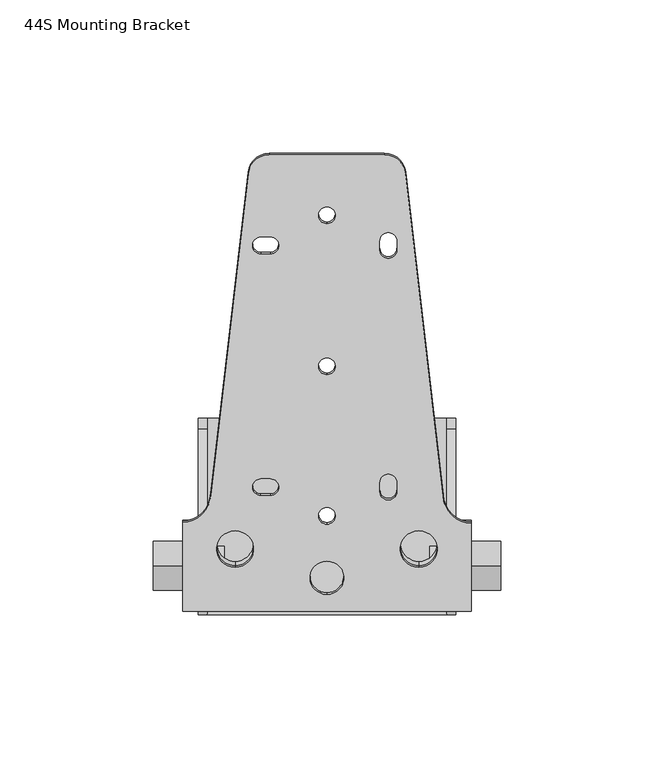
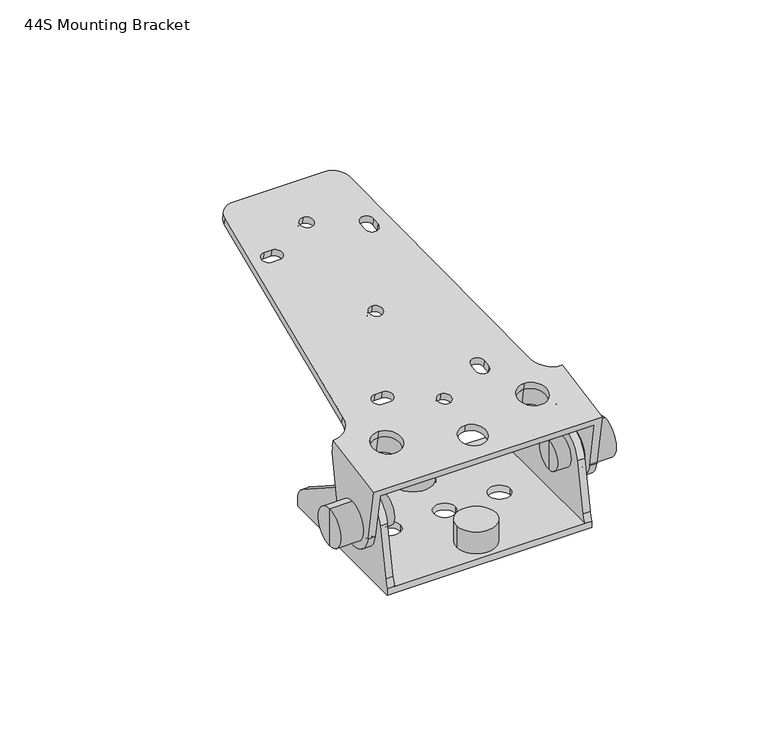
"""IFC4 building model written with IfcOpenShell, lengths in millimetres: proxy geometry, d&b xS-Series 44S Mounting Bracket : 44S Mounting Bracket."""

from ifc_helpers import new_model, si_unit, point, frame, frame_2d, origin, origin_with_axes, place, context, project, spatial, polyline, circle_curve, trimmed, segment, composite_curve, outline, extrude, source, transform, mapped, element, save
from ifc_brep_helpers import plane_surface, cylinder_surface, revolved_surface, advanced_brep


def proxy_44s_mounting_bracket_1f6d09f7(model_context):
    return source(origin(), model_context, "Body", "SolidModel", [
        advanced_brep(
        [(25.7132706, 112.2510422, 67.9302869), (37.9949251, 7.1169841, 49.3923159), (47.0, -1.7512835, 47.8286011), (44.0, -1.7512835, 47.8286011), (44.0, -30.3491528, 42.7860251), (-44.0, -30.3491528, 42.7860251), (-44.0, -1.7512835, 47.8286011), (-47.0, -1.7512835, 47.8286011), (-47.0, -1.4422551, 47.8830911), (-37.9541317, 7.4661862, 49.4538897), (-25.7132706, 112.2510422, 67.9302869), (-18.7591389, 118.3568179, 69.0068999), (18.7591389, 118.3568179, 69.0068999), (29.9380242, -4.2340768, 47.3908176), (29.9380242, -16.0517698, 45.3070395), (-29.9380242, -4.2340768, 47.3908176), (-29.9380242, -16.0517698, 45.3070395), (0.0, 101.3688842, 66.0114689), (0.0, 95.9524415, 65.0564039), (0.0, 3.3805127, 48.7334752), (0.0, -2.0359299, 47.7784102), (0.0, -14.0998249, 45.65122), (0.0, -24.9327102, 43.7410901), (22.75, 8.5507535, 49.6451281), (22.75, 11.5051767, 50.1660727), (17.25, 11.5051767, 50.1660727), (17.25, 8.5507535, 49.6451281), (-21.5, 7.3197438, 49.4280679), (-18.5, 7.3197438, 49.4280679), (-18.5, 12.7361864, 50.3831329), (-21.5, 12.7361864, 50.3831329), (17.25, 90.289797, 64.0579269), (17.25, 87.3353737, 63.5369823), (22.75, 87.3353737, 63.5369823), (22.75, 90.289797, 64.0579269), (-18.5, 91.5208066, 64.2749871), (-21.5, 91.5208066, 64.2749871), (-21.5, 86.104364, 63.3199221), (-18.5, 86.104364, 63.3199221), (0.0, 52.1284965, 57.32906), (0.0, 46.7120539, 56.373995), (25.7132706, 111.7300977, 70.8847102), (18.7591389, 117.8358734, 71.9613232), (-18.7591389, 117.8358734, 71.9613232), (-25.7132706, 111.7300977, 70.8847102), (-37.9541317, 6.9452417, 52.4083129), (-47.0, -1.9631996, 50.8375144), (-47.0, -30.8700973, 45.7404484), (47.0, -30.8700973, 45.7404484), (47.0, -2.272228, 50.7830243), (37.9949251, 6.5960396, 52.3467392), (29.9380242, -4.7550213, 50.3452409), (29.9380242, -16.5727143, 48.2614627), (-29.9380242, -4.7550213, 50.3452409), (-29.9380242, -16.5727143, 48.2614627), (0.0, 100.8479396, 68.9658921), (0.0, 95.431497, 68.0108272), (0.0, 2.8595682, 51.6878984), (0.0, -2.5568744, 50.7328335), (0.0, -14.6207694, 48.6056433), (0.0, -25.4536547, 46.6955133), (22.75, 8.0298089, 52.5995514), (17.25, 8.0298089, 52.5995514), (17.25, 10.9842322, 53.1204959), (22.75, 10.9842322, 53.1204959), (-21.5, 6.7987992, 52.3824912), (-21.5, 12.2152419, 53.3375561), (-18.5, 12.2152419, 53.3375561), (-18.5, 6.7987992, 52.3824912), (17.25, 89.7688524, 67.0123501), (22.75, 89.7688524, 67.0123501), (22.75, 86.8144292, 66.4914056), (17.25, 86.8144292, 66.4914056), (-18.5, 90.9998621, 67.2294104), (-18.5, 85.5834195, 66.2743454), (-21.5, 85.5834195, 66.2743454), (-21.5, 90.9998621, 67.2294104), (0.0, 51.607552, 60.2834832), (0.0, 46.1911093, 59.3284183), (47.0, -26.8761892, 23.08987), (47.0, -5.2104187, 23.08987), (47.0, -1.2997982, 45.2681009), (-47.0, -26.8761892, 23.08987), (-44.0, -26.8761892, 23.08987), (44.0, -26.8761892, 23.08987), (-47.0, -1.2997982, 45.2681009), (-47.0, -5.2104187, 23.08987), (-44.0, -5.2104187, 23.08987), (-44.0, -1.2997982, 45.2681009), (44.0, -1.2997982, 45.2681009), (44.0, -5.2104187, 23.08987)],
        [
            (0, 1),
            (1, 2, circle_curve(frame((47.0, 7.1169841, 49.3923159), z_axis=(0.0, -0.17364817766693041, 0.9848077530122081), x_axis=(0.0, -0.9848077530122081, -0.17364817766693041)), 9.0050749)),
            (2, 3),
            (3, 4),
            (4, 5),
            (5, 6),
            (6, 7),
            (7, 8),
            (8, 9, circle_curve(frame((-47.0, 7.4661862, 49.4538897), z_axis=(0.0, -0.17364817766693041, 0.9848077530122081), x_axis=(0.0, -0.9848077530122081, -0.17364817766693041)), 9.0458683)),
            (9, 10),
            (10, 11, circle_curve(frame((-18.7591389, 111.4631636, 67.7913627), z_axis=(0.0, 0.17364817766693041, -0.9848077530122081), x_axis=(0.0, -0.9848077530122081, -0.17364817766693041)), 7.0)),
            (11, 12),
            (12, 0, circle_curve(frame((18.7591389, 111.4631636, 67.7913627), z_axis=(0.0, 0.17364817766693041, -0.9848077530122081), x_axis=(0.0, -0.9848077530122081, -0.17364817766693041)), 7.0)),
            (13, 14, circle_curve(frame((29.9380242, -10.1429233, 46.3489285), z_axis=(0.0, -0.1736481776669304, 0.9848077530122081), x_axis=(0.0, -0.9848077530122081, -0.1736481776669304)), 6.0)),
            (14, 13, circle_curve(frame((29.9380242, -10.1429233, 46.3489285), z_axis=(0.0, -0.1736481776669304, 0.9848077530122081), x_axis=(0.0, -0.9848077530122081, -0.1736481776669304)), 6.0)),
            (15, 16, circle_curve(frame((-29.9380242, -10.1429233, 46.3489285), z_axis=(0.0, -0.1736481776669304, 0.9848077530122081), x_axis=(0.0, -0.9848077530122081, -0.1736481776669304)), 6.0)),
            (16, 15, circle_curve(frame((-29.9380242, -10.1429233, 46.3489285), z_axis=(0.0, -0.1736481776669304, 0.9848077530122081), x_axis=(0.0, -0.9848077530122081, -0.1736481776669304)), 6.0)),
            (17, 18, circle_curve(frame((0.0, 98.6606629, 65.5339364), z_axis=(0.0, -0.1736481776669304, 0.9848077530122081), x_axis=(0.0, -0.9848077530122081, -0.1736481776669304)), 2.75)),
            (18, 17, circle_curve(frame((0.0, 98.6606629, 65.5339364), z_axis=(0.0, -0.1736481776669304, 0.9848077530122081), x_axis=(0.0, -0.9848077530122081, -0.1736481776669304)), 2.75)),
            (19, 20, circle_curve(frame((0.0, 0.6722914, 48.2559427), z_axis=(0.0, -0.1736481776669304, 0.9848077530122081), x_axis=(0.0, -0.9848077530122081, -0.1736481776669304)), 2.75)),
            (20, 19, circle_curve(frame((0.0, 0.6722914, 48.2559427), z_axis=(0.0, -0.1736481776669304, 0.9848077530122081), x_axis=(0.0, -0.9848077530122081, -0.1736481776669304)), 2.75)),
            (21, 22, circle_curve(frame((0.0, -19.5162675, 44.6961551), z_axis=(0.0, -0.1736481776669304, 0.9848077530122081), x_axis=(0.0, -0.9848077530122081, -0.1736481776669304)), 5.5)),
            (22, 21, circle_curve(frame((0.0, -19.5162675, 44.6961551), z_axis=(0.0, -0.1736481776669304, 0.9848077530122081), x_axis=(0.0, -0.9848077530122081, -0.1736481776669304)), 5.5)),
            (23, 24),
            (24, 25, circle_curve(frame((20.0, 11.5051767, 50.1660727), z_axis=(0.0, -0.1736481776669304, 0.9848077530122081), x_axis=(0.0, -0.9848077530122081, -0.1736481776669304)), 2.75)),
            (25, 26),
            (26, 23, circle_curve(frame((20.0, 8.5507535, 49.6451281), z_axis=(0.0, -0.1736481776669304, 0.9848077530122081), x_axis=(0.0, -0.9848077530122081, -0.1736481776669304)), 2.75)),
            (27, 28),
            (28, 29, circle_curve(frame((-18.5, 10.0279651, 49.9056004), z_axis=(0.0, -0.1736481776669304, 0.9848077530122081), x_axis=(0.0, -0.9848077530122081, -0.1736481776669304)), 2.75)),
            (29, 30),
            (30, 27, circle_curve(frame((-21.5, 10.0279651, 49.9056004), z_axis=(0.0, -0.1736481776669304, 0.9848077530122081), x_axis=(0.0, -0.9848077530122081, -0.1736481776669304)), 2.75)),
            (31, 32),
            (32, 33, circle_curve(frame((20.0, 87.3353737, 63.5369823), z_axis=(0.0, -0.1736481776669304, 0.9848077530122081), x_axis=(0.0, -0.9848077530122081, -0.1736481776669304)), 2.75)),
            (33, 34),
            (34, 31, circle_curve(frame((20.0, 90.289797, 64.0579269), z_axis=(0.0, -0.1736481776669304, 0.9848077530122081), x_axis=(0.0, -0.9848077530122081, -0.1736481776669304)), 2.75)),
            (35, 36),
            (36, 37, circle_curve(frame((-21.5, 88.8125853, 63.7974546), z_axis=(0.0, -0.1736481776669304, 0.9848077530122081), x_axis=(0.0, -0.9848077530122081, -0.1736481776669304)), 2.75)),
            (37, 38),
            (38, 35, circle_curve(frame((-18.5, 88.8125853, 63.7974546), z_axis=(0.0, -0.1736481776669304, 0.9848077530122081), x_axis=(0.0, -0.9848077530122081, -0.1736481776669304)), 2.75)),
            (39, 40, circle_curve(frame((0.0, 49.4202752, 56.8515275), z_axis=(0.0, -0.1736481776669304, 0.9848077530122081), x_axis=(0.0, -0.9848077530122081, -0.1736481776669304)), 2.75)),
            (40, 39, circle_curve(frame((0.0, 49.4202752, 56.8515275), z_axis=(0.0, -0.1736481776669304, 0.9848077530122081), x_axis=(0.0, -0.9848077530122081, -0.1736481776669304)), 2.75)),
            (41, 42, circle_curve(frame((18.7591389, 110.9422191, 70.7457859), z_axis=(0.0, -0.17364817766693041, 0.9848077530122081), x_axis=(0.0, -0.9848077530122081, -0.17364817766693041)), 7.0)),
            (42, 43),
            (43, 44, circle_curve(frame((-18.7591389, 110.9422191, 70.7457859), z_axis=(0.0, -0.17364817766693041, 0.9848077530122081), x_axis=(0.0, -0.9848077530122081, -0.17364817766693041)), 7.0)),
            (44, 45),
            (45, 46, circle_curve(frame((-47.0, 6.9452417, 52.4083129), z_axis=(0.0, 0.17364817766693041, -0.9848077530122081), x_axis=(0.0, -0.9848077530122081, -0.17364817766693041)), 9.0458683)),
            (46, 47),
            (47, 48),
            (48, 49),
            (49, 50, circle_curve(frame((47.0, 6.5960396, 52.3467392), z_axis=(0.0, 0.17364817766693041, -0.9848077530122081), x_axis=(0.0, -0.9848077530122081, -0.17364817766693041)), 9.0050749)),
            (50, 41),
            (51, 52, circle_curve(frame((29.9380242, -10.6638678, 49.3033518), z_axis=(0.0, 0.1736481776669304, -0.9848077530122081), x_axis=(0.0, -0.9848077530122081, -0.1736481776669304)), 6.0)),
            (52, 51, circle_curve(frame((29.9380242, -10.6638678, 49.3033518), z_axis=(0.0, 0.1736481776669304, -0.9848077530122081), x_axis=(0.0, -0.9848077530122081, -0.1736481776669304)), 6.0)),
            (53, 54, circle_curve(frame((-29.9380242, -10.6638678, 49.3033518), z_axis=(0.0, 0.1736481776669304, -0.9848077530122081), x_axis=(0.0, -0.9848077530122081, -0.1736481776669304)), 6.0)),
            (54, 53, circle_curve(frame((-29.9380242, -10.6638678, 49.3033518), z_axis=(0.0, 0.1736481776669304, -0.9848077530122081), x_axis=(0.0, -0.9848077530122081, -0.1736481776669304)), 6.0)),
            (55, 56, circle_curve(frame((0.0, 98.1397183, 68.4883596), z_axis=(0.0, 0.1736481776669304, -0.9848077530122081), x_axis=(0.0, -0.9848077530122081, -0.1736481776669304)), 2.75)),
            (56, 55, circle_curve(frame((0.0, 98.1397183, 68.4883596), z_axis=(0.0, 0.1736481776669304, -0.9848077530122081), x_axis=(0.0, -0.9848077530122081, -0.1736481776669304)), 2.75)),
            (57, 58, circle_curve(frame((0.0, 0.1513469, 51.210366), z_axis=(0.0, 0.1736481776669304, -0.9848077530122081), x_axis=(0.0, -0.9848077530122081, -0.1736481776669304)), 2.75)),
            (58, 57, circle_curve(frame((0.0, 0.1513469, 51.210366), z_axis=(0.0, 0.1736481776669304, -0.9848077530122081), x_axis=(0.0, -0.9848077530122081, -0.1736481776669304)), 2.75)),
            (59, 60, circle_curve(frame((0.0, -20.037212, 47.6505783), z_axis=(0.0, 0.1736481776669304, -0.9848077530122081), x_axis=(0.0, -0.9848077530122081, -0.1736481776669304)), 5.5)),
            (60, 59, circle_curve(frame((0.0, -20.037212, 47.6505783), z_axis=(0.0, 0.1736481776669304, -0.9848077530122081), x_axis=(0.0, -0.9848077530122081, -0.1736481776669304)), 5.5)),
            (61, 62, circle_curve(frame((20.0, 8.0298089, 52.5995514), z_axis=(0.0, 0.1736481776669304, -0.9848077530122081), x_axis=(0.0, -0.9848077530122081, -0.1736481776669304)), 2.75)),
            (62, 63),
            (63, 64, circle_curve(frame((20.0, 10.9842322, 53.1204959), z_axis=(0.0, 0.1736481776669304, -0.9848077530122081), x_axis=(0.0, -0.9848077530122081, -0.1736481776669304)), 2.75)),
            (64, 61),
            (65, 66, circle_curve(frame((-21.5, 9.5070205, 52.8600236), z_axis=(0.0, 0.1736481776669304, -0.9848077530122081), x_axis=(0.0, -0.9848077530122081, -0.1736481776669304)), 2.75)),
            (66, 67),
            (67, 68, circle_curve(frame((-18.5, 9.5070205, 52.8600236), z_axis=(0.0, 0.1736481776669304, -0.9848077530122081), x_axis=(0.0, -0.9848077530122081, -0.1736481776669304)), 2.75)),
            (68, 65),
            (69, 70, circle_curve(frame((20.0, 89.7688524, 67.0123501), z_axis=(0.0, 0.1736481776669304, -0.9848077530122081), x_axis=(0.0, -0.9848077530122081, -0.1736481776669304)), 2.75)),
            (70, 71),
            (71, 72, circle_curve(frame((20.0, 86.8144292, 66.4914056), z_axis=(0.0, 0.1736481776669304, -0.9848077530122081), x_axis=(0.0, -0.9848077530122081, -0.1736481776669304)), 2.75)),
            (72, 69),
            (73, 74, circle_curve(frame((-18.5, 88.2916408, 66.7518779), z_axis=(0.0, 0.1736481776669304, -0.9848077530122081), x_axis=(0.0, -0.9848077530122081, -0.1736481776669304)), 2.75)),
            (74, 75),
            (75, 76, circle_curve(frame((-21.5, 88.2916408, 66.7518779), z_axis=(0.0, 0.1736481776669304, -0.9848077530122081), x_axis=(0.0, -0.9848077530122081, -0.1736481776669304)), 2.75)),
            (76, 73),
            (77, 78, circle_curve(frame((0.0, 48.8993307, 59.8059508), z_axis=(0.0, 0.1736481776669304, -0.9848077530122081), x_axis=(0.0, -0.9848077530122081, -0.1736481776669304)), 2.75)),
            (78, 77, circle_curve(frame((0.0, 48.8993307, 59.8059508), z_axis=(0.0, 0.1736481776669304, -0.9848077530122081), x_axis=(0.0, -0.9848077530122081, -0.1736481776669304)), 2.75)),
            (0, 41),
            (50, 1),
            (49, 2),
            (48, 79),
            (79, 80, circle_curve(frame((47.0, -16.043304, 25.0), z_axis=(1.0, 0.0, 0.0), x_axis=(0.0, -0.984807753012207, -0.17364817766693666)), 11.0)),
            (80, 81),
            (81, 2),
            (47, 82),
            (82, 83),
            (83, 5),
            (4, 84),
            (84, 79),
            (46, 8),
            (7, 85),
            (85, 86),
            (86, 82, circle_curve(frame((-47.0, -16.043304, 25.0), z_axis=(-1.0, 0.0, 0.0), x_axis=(0.0, -0.9848077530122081, -0.17364817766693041)), 11.0)),
            (45, 9),
            (44, 10),
            (43, 11),
            (42, 12),
            (13, 51),
            (52, 14),
            (15, 53),
            (54, 16),
            (17, 55),
            (56, 18),
            (19, 57),
            (58, 20),
            (21, 59),
            (60, 22),
            (23, 61),
            (64, 24),
            (63, 25),
            (62, 26),
            (27, 65),
            (68, 28),
            (67, 29),
            (66, 30),
            (31, 69),
            (72, 32),
            (71, 33),
            (70, 34),
            (35, 73),
            (76, 36),
            (75, 37),
            (74, 38),
            (83, 87, circle_curve(frame((-44.0, -16.043304, 25.0), z_axis=(1.0, 0.0, 0.0), x_axis=(0.0, -0.9848077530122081, -0.17364817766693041)), 11.0)),
            (87, 88),
            (88, 6),
            (85, 88),
            (87, 86),
            (3, 89),
            (89, 90),
            (90, 84, circle_curve(frame((44.0, -16.043304, 25.0), z_axis=(-1.0, 0.0, 0.0), x_axis=(0.0, -0.984807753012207, -0.17364817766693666)), 11.0)),
            (80, 90),
            (89, 81),
            (39, 77),
            (78, 40),
        ],
        [
            plane_surface(frame((37.9541317, 7.4661862, 49.4538897), z_axis=(0.0, 0.17364817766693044, -0.9848077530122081), x_axis=(0.11429040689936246, -0.9783546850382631, -0.1725103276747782))),
            plane_surface(frame((37.9541317, 6.9452417, 52.4083129), z_axis=(0.0, -0.17364817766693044, 0.9848077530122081), x_axis=(-0.11429040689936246, 0.9783546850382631, 0.1725103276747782))),
            plane_surface(frame((25.7132706, 112.2510422, 67.9302869), z_axis=(0.9934473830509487, 0.11255407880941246, 0.01984632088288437), x_axis=(0.0, -0.17364817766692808, 0.9848077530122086))),
            revolved_surface(polyline([(47.0, -2.2722279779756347, 50.78302435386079), (47.0, -1.7512834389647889, 47.82860106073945)]), (47.0, 6.5960396, 52.3467392), (0.0, -0.17364817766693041, 0.9848077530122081)),
            plane_surface(frame((47.0, -1.7512835, 47.8286011), z_axis=(1.0000000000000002, 0.0, 0.0), x_axis=(0.0, -0.17364817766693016, 0.9848077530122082))),
            plane_surface(frame((47.0, -30.3491528, 42.7860251), z_axis=(0.0, -0.984807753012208, -0.17364817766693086), x_axis=(0.0, -0.17364817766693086, 0.984807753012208))),
            plane_surface(frame((-47.0, -30.3491528, 42.7860251), z_axis=(-1.0, 0.0, 0.0), x_axis=(0.0, -0.17364817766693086, 0.984807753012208))),
            revolved_surface(polyline([(-47.0, -1.963199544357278, 50.83751440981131), (-47.0, -1.4422550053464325, 47.883091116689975)]), (-47.0, 6.9452417, 52.4083129), (0.0, -0.17364817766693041, 0.9848077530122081)),
            plane_surface(frame((-37.9541317, 7.4661862, 49.4538897), z_axis=(-0.9934473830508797, 0.11255407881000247, 0.01984632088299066), x_axis=(0.0, -0.17364817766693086, 0.984807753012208))),
            cylinder_surface(frame((-18.7591389, 110.9422191, 70.7457859), z_axis=(0.0, 0.17364817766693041, -0.9848077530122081), x_axis=(0.0, -0.9848077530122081, -0.17364817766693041)), 7.0),
            plane_surface(frame((-18.7591389, 118.3568179, 69.0068999), z_axis=(0.0, 0.9848077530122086, 0.17364817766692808), x_axis=(0.0, -0.17364817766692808, 0.9848077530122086))),
            cylinder_surface(frame((18.7591389, 110.9422191, 70.7457859), z_axis=(0.0, 0.17364817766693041, -0.9848077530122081), x_axis=(0.0, -0.9848077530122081, -0.17364817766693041)), 7.0),
            revolved_surface(polyline([(29.9380242, -16.572714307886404, 48.261462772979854), (29.9380242, -16.05176976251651, 45.30703944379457)]), (29.9380242, -6.6699597, 26.6527735), (0.0, -0.1736481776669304, 0.9848077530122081)),
            revolved_surface(polyline([(-29.9380242, -16.572714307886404, 48.261462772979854), (-29.9380242, -16.05176976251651, 45.30703944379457)]), (-29.9380242, -6.6699597, 26.6527735), (0.0, -0.1736481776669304, 0.9848077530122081)),
            revolved_surface(polyline([(0.0, 95.43149698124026, 68.01082719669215), (0.0, 95.95244152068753, 65.05640390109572)]), (0.0, 102.1336264, 45.8377813), (0.0, -0.1736481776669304, 0.9848077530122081)),
            revolved_surface(polyline([(0.0, -2.556874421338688, 50.73283351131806), (0.0, -2.0359298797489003, 47.77841020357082)]), (0.0, 4.145255, 28.5597876), (0.0, -0.1736481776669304, 0.9848077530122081)),
            revolved_surface(polyline([(0.0, -25.453654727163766, 46.69551333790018), (0.0, -24.932710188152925, 43.74109004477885)]), (0.0, -16.043304, 25.0), (0.0, -0.1736481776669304, 0.9848077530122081)),
            plane_surface(frame((22.75, 8.5507535, 49.6451281), z_axis=(-1.0000000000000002, 0.0, 0.0), x_axis=(0.0, -0.17364817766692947, 0.9848077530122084))),
            revolved_surface(polyline([(20.0, 8.276010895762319, 52.64296341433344), (20.0, 8.796955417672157, 49.68854021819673)]), (20.0, 14.9781403, 30.4699176), (0.0, -0.1736481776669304, 0.9848077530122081)),
            plane_surface(frame((17.25, 11.5051767, 50.1660727), z_axis=(1.0000000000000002, 0.0, 0.0), x_axis=(0.0, -0.17364817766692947, 0.9848077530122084))),
            revolved_surface(polyline([(20.0, 5.321587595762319, 52.12201891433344), (20.0, 5.842532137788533, 49.16759560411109)]), (20.0, 12.023717, 29.9489731), (0.0, -0.1736481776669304, 0.9848077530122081)),
            plane_surface(frame((-21.5, 7.3197438, 49.4280679), z_axis=(0.0, 0.9848077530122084, 0.17364817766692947), x_axis=(0.0, -0.17364817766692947, 0.9848077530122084))),
            revolved_surface(polyline([(-18.5, 6.7987991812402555, 52.38249119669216), (-18.5, 7.319743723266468, 49.42806788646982)]), (-18.5, 13.5009286, 30.2094453), (0.0, -0.1736481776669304, 0.9848077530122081)),
            plane_surface(frame((-18.5, 12.7361864, 50.3831329), z_axis=(0.0, -0.9848077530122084, -0.17364817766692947), x_axis=(0.0, -0.17364817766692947, 0.9848077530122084))),
            revolved_surface(polyline([(-21.5, 6.7987991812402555, 52.38249119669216), (-21.5, 7.319743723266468, 49.42806788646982)]), (-21.5, 13.5009286, 30.2094453), (0.0, -0.1736481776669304, 0.9848077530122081)),
            plane_surface(frame((17.25, 90.289797, 64.0579269), z_axis=(1.0000000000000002, 0.0, 0.0), x_axis=(0.0, -0.17364817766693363, 0.9848077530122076))),
            revolved_surface(polyline([(20.0, 84.10620779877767, 66.01387309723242), (20.0, 84.62715233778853, 63.05944980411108)]), (20.0, 90.8083372, 43.8408273), (0.0, -0.1736481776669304, 0.9848077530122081)),
            plane_surface(frame((22.75, 87.3353737, 63.5369823), z_axis=(-1.0000000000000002, 0.0, 0.0), x_axis=(0.0, -0.17364817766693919, 0.9848077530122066))),
            revolved_surface(polyline([(20.0, 87.0606310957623, 66.53481761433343), (20.0, 87.58157562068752, 63.58039440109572)]), (20.0, 93.7627605, 44.3617718), (0.0, -0.1736481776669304, 0.9848077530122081)),
            plane_surface(frame((-18.5, 91.5208066, 64.2749871), z_axis=(0.0, -0.9848077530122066, -0.17364817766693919), x_axis=(0.0, -0.17364817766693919, 0.9848077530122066))),
            revolved_surface(polyline([(-21.5, 85.58341947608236, 66.27434542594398), (-21.5, 86.10436402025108, 63.31992210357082)]), (-21.5, 92.2855489, 44.1012995), (0.0, -0.1736481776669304, 0.9848077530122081)),
            plane_surface(frame((-21.5, 86.104364, 63.3199221), z_axis=(0.0, 0.9848077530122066, 0.17364817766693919), x_axis=(0.0, -0.17364817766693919, 0.9848077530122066))),
            revolved_surface(polyline([(-18.5, 85.58341947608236, 66.27434542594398), (-18.5, 86.10436402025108, 63.31992210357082)]), (-18.5, 92.2855489, 44.1012995), (0.0, -0.1736481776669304, 0.9848077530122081)),
            plane_surface(frame((-44.0, -30.3491528, 42.7860251), z_axis=(1.0000000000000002, 0.0, 0.0), x_axis=(0.0, -0.9848077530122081, -0.1736481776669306))),
            plane_surface(frame((-47.0, -1.2997982, 45.2681009), z_axis=(0.0, 0.9848077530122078, -0.17364817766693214), x_axis=(1.0, 0.0, 0.0))),
            cylinder_surface(frame((-44.0, -16.043304, 25.0), z_axis=(-1.0, 0.0, 0.0), x_axis=(0.0, -0.9848077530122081, -0.17364817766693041)), 11.0),
            plane_surface(frame((-47.0, -1.7512835, 47.8286011), z_axis=(0.0, 0.9848077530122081, 0.17364817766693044), x_axis=(1.0, 0.0, 0.0))),
            plane_surface(frame((44.0, -26.8761892, 23.08987), z_axis=(-1.0000000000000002, 0.0, 0.0), x_axis=(0.0, -0.17364817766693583, 0.9848077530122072))),
            plane_surface(frame((47.0, -5.2104187, 23.08987), z_axis=(0.0, 0.9848077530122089, -0.17364817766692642), x_axis=(-1.0, 0.0, 0.0))),
            cylinder_surface(frame((44.0, -16.043304, 25.0), z_axis=(1.0, 0.0, 0.0), x_axis=(0.0, -0.984807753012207, -0.17364817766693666)), 11.0),
            plane_surface(frame((47.0, -1.2997982, 45.2681009), z_axis=(0.0, 0.9848077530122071, 0.17364817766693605), x_axis=(-1.0, 0.0, 0.0))),
            revolved_surface(polyline([(0.0, 46.19110937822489, 59.328418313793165), (0.0, 46.7120539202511, 56.37399500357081)]), (0.0, 52.8932388, 37.1553724), (0.0, -0.1736481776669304, 0.9848077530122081)),
        ],
        [
            (0, [[1, 2, 3, 4, 5, 6, 7, 8, 9, 10, 11, 12, 13], [14, 15], [16, 17], [18, 19], [20, 21], [22, 23], [24, 25, 26, 27], [28, 29, 30, 31], [32, 33, 34, 35], [36, 37, 38, 39], [40, 41]]),
            (1, [[42, 43, 44, 45, 46, 47, 48, 49, 50, 51], [52, 53], [54, 55], [56, 57], [58, 59], [60, 61], [62, 63, 64, 65], [66, 67, 68, 69], [70, 71, 72, 73], [74, 75, 76, 77], [78, 79]]),
            (2, [[-1, 80, -51, 81]]),
            (3, [[-2, -81, -50, 82]]),
            (4, [[-49, 83, 84, 85, 86, -82]]),
            (5, [[-83, -48, 87, 88, 89, -5, 90, 91]]),
            (6, [[-47, 92, -8, 93, 94, 95, -87]]),
            (7, [[-9, -92, -46, 96]]),
            (8, [[-10, -96, -45, 97]]),
            (9, [[-11, -97, -44, 98]]),
            (10, [[-12, -98, -43, 99]]),
            (11, [[-13, -99, -42, -80]]),
            (12, [[-14, 100, -53, 101]]),
            (12, [[-15, -101, -52, -100]]),
            (13, [[-16, 102, -55, 103]]),
            (13, [[-17, -103, -54, -102]]),
            (14, [[-18, 104, -57, 105]]),
            (14, [[-19, -105, -56, -104]]),
            (15, [[-20, 106, -59, 107]]),
            (15, [[-21, -107, -58, -106]]),
            (16, [[-22, 108, -61, 109]]),
            (16, [[-23, -109, -60, -108]]),
            (17, [[-24, 110, -65, 111]]),
            (18, [[-25, -111, -64, 112]]),
            (19, [[-26, -112, -63, 113]]),
            (20, [[-27, -113, -62, -110]]),
            (21, [[-28, 114, -69, 115]]),
            (22, [[-29, -115, -68, 116]]),
            (23, [[-30, -116, -67, 117]]),
            (24, [[-31, -117, -66, -114]]),
            (25, [[-32, 118, -73, 119]]),
            (26, [[-33, -119, -72, 120]]),
            (27, [[-34, -120, -71, 121]]),
            (28, [[-35, -121, -70, -118]]),
            (29, [[-36, 122, -77, 123]]),
            (30, [[-37, -123, -76, 124]]),
            (31, [[-38, -124, -75, 125]]),
            (32, [[-39, -125, -74, -122]]),
            (33, [[-89, 126, 127, 128, -6]]),
            (34, [[-94, 129, -127, 130]]),
            (35, [[-95, -130, -126, -88]]),
            (36, [[-93, -7, -128, -129]]),
            (37, [[131, 132, 133, -90, -4]]),
            (38, [[-85, 134, -132, 135]]),
            (39, [[-84, -91, -133, -134]]),
            (40, [[-86, -135, -131, -3]]),
            (41, [[-40, 136, -79, 137]]),
            (41, [[-41, -137, -78, -136]]),
        ],
    ),
        extrude(outline(composite_curve([segment(trimmed(circle_curve(frame_2d((0.0, 6.0000001)), 9.0), [point((0.0, 15.0))], [point((0.0, -3.0))], False, "CARTESIAN"), True, "CONTINUOUS"), segment(trimmed(circle_curve(frame_2d((0.0, 6.0000001)), 9.0), [point((0.0, -3.0))], [point((0.0, 15.0))], False, "CARTESIAN"), True, "CONTINUOUS")], self_intersect=False), holes=[composite_curve([segment(trimmed(circle_curve(frame_2d((0.0, 6.0000001)), 6.0), [point((0.0, 12.0000001))], [point((0.0, 0.0))], True, "CARTESIAN"), True, "CONTINUOUS"), segment(trimmed(circle_curve(frame_2d((0.0, 6.0000001)), 6.0), [point((0.0, 0.0))], [point((0.0, 12.0000001))], True, "CARTESIAN"), True, "CONTINUOUS")], self_intersect=False)]), frame((29.9380242, -14.7320437, 37.8225006), z_axis=(0.0, -0.17364817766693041, 0.9848077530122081), x_axis=(1.0, 0.0, 0.0)), (0.0, 0.0, 1.0), 7.6),
        extrude(outline(composite_curve([segment(trimmed(circle_curve(frame_2d((-59.8760484, 6.0000001)), 9.0), [point((-59.8760484, 15.0))], [point((-59.8760484, -3.0))], False, "CARTESIAN"), True, "CONTINUOUS"), segment(trimmed(circle_curve(frame_2d((-59.8760484, 6.0000001)), 9.0), [point((-59.8760484, -3.0))], [point((-59.8760484, 15.0))], False, "CARTESIAN"), True, "CONTINUOUS")], self_intersect=False), holes=[composite_curve([segment(trimmed(circle_curve(frame_2d((-59.8760484, 6.0000001)), 6.0), [point((-59.8760484, 12.0000001))], [point((-59.8760484, 0.0))], True, "CARTESIAN"), True, "CONTINUOUS"), segment(trimmed(circle_curve(frame_2d((-59.8760484, 6.0000001)), 6.0), [point((-59.8760484, 0.0))], [point((-59.8760484, 12.0000001))], True, "CARTESIAN"), True, "CONTINUOUS")], self_intersect=False)]), frame((29.9380242, -14.7320437, 37.8225006), z_axis=(0.0, -0.17364817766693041, 0.9848077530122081), x_axis=(1.0, 0.0, 0.0)), (0.0, 0.0, 1.0), 7.6),
        advanced_brep(
        [(-56.6, -16.043304, 25.0), (-56.6, -16.043304, 33.0047051), (-56.6, -16.043304, 16.9952949), (-47.0, -16.043304, 16.9952949), (-47.0, -16.043304, 33.0047051), (-47.0, -16.043304, 25.0)],
        [
            (0, 1),
            (1, 2, circle_curve(frame((-56.6, -16.043304, 25.0), z_axis=(-1.0, 0.0, 0.0), x_axis=(0.0, 0.0, 1.0)), 8.0047051)),
            (2, 0),
            (2, 1, circle_curve(frame((-56.6, -16.043304, 25.0), z_axis=(-1.0, 0.0, 0.0), x_axis=(0.0, 0.0, 1.0)), 8.0047051)),
            (3, 4, circle_curve(frame((-47.0, -16.043304, 25.0), z_axis=(1.0, 0.0, 0.0), x_axis=(0.0, 0.0, 1.0)), 8.0047051)),
            (4, 5),
            (5, 3),
            (4, 3, circle_curve(frame((-47.0, -16.043304, 25.0), z_axis=(1.0, 0.0, 0.0), x_axis=(0.0, 0.0, 1.0)), 8.0047051)),
            (1, 4),
            (3, 2),
        ],
        [
            plane_surface(frame((-56.6, -16.043304, 25.0), z_axis=(-1.0, 0.0, 0.0), x_axis=(0.0, 0.0, 1.0))),
            plane_surface(frame((-47.0, -16.043304, 25.0), z_axis=(1.0, 0.0, 0.0), x_axis=(0.0, 0.0, 1.0))),
            cylinder_surface(frame((-71.6, -16.043304, 25.0), z_axis=(-1.0, 0.0, 0.0), x_axis=(0.0, 0.0, 1.0)), 8.0047051),
        ],
        [
            (0, [[1, 2, 3]]),
            (0, [[-3, 4, -1]]),
            (1, [[5, 6, 7]]),
            (1, [[8, -7, -6]]),
            (2, [[-2, 9, -5, 10]]),
            (2, [[-4, -10, -8, -9]]),
        ],
    ),
        advanced_brep(
        [(-44.0, -16.043304, 16.9952949), (-44.0, -16.043304, 33.0047051), (-42.0, -16.043304, 33.0047051), (-42.0, -16.043304, 16.9952949), (-44.0, -16.043304, 25.0), (-42.0, -16.043304, 25.0)],
        [
            (0, 1, circle_curve(frame((-44.0, -16.043304, 25.0), z_axis=(1.0, 0.0, 0.0), x_axis=(0.0, 0.0, 1.0)), 8.0047051)),
            (1, 2),
            (2, 3, circle_curve(frame((-42.0, -16.043304, 25.0), z_axis=(-1.0, 0.0, 0.0), x_axis=(0.0, 0.0, 1.0)), 8.0047051)),
            (3, 0),
            (1, 0, circle_curve(frame((-44.0, -16.043304, 25.0), z_axis=(1.0, 0.0, 0.0), x_axis=(0.0, 0.0, 1.0)), 8.0047051)),
            (3, 2, circle_curve(frame((-42.0, -16.043304, 25.0), z_axis=(-1.0, 0.0, 0.0), x_axis=(0.0, 0.0, 1.0)), 8.0047051)),
            (4, 1),
            (0, 4),
            (2, 5),
            (5, 3),
        ],
        [
            cylinder_surface(frame((-71.6, -16.043304, 25.0), z_axis=(-1.0, 0.0, 0.0), x_axis=(0.0, 0.0, 1.0)), 8.0047051),
            plane_surface(frame((-44.0, -16.043304, 25.0), z_axis=(-1.0, 0.0, 0.0), x_axis=(0.0, 0.0, 1.0))),
            plane_surface(frame((-42.0, -16.043304, 25.0), z_axis=(1.0, 0.0, 0.0), x_axis=(0.0, 0.0, 1.0))),
        ],
        [
            (0, [[1, 2, 3, 4]]),
            (0, [[5, -4, 6, -2]]),
            (1, [[7, -1, 8]]),
            (1, [[-8, -5, -7]]),
            (2, [[-3, 9, 10]]),
            (2, [[-6, -10, -9]]),
        ],
    ),
        advanced_brep(
        [(-39.0, -16.043304, 18.6786387), (-39.0, -16.043304, 31.3213613), (-33.5, -16.043304, 31.3213613), (-33.5, -16.043304, 18.6786387), (-39.0, -16.043304, 25.0), (-33.5, -16.043304, 25.0)],
        [
            (0, 1, circle_curve(frame((-39.0, -16.043304, 25.0), z_axis=(1.0, 0.0, 0.0), x_axis=(0.0, 0.0, 1.0)), 6.3213613)),
            (1, 2),
            (2, 3, circle_curve(frame((-33.5, -16.043304, 25.0), z_axis=(-1.0, 0.0, 0.0), x_axis=(0.0, 0.0, 1.0)), 6.3213613)),
            (3, 0),
            (1, 0, circle_curve(frame((-39.0, -16.043304, 25.0), z_axis=(1.0, 0.0, 0.0), x_axis=(0.0, 0.0, 1.0)), 6.3213613)),
            (3, 2, circle_curve(frame((-33.5, -16.043304, 25.0), z_axis=(-1.0, 0.0, 0.0), x_axis=(0.0, 0.0, 1.0)), 6.3213613)),
            (4, 1),
            (0, 4),
            (2, 5),
            (5, 3),
        ],
        [
            cylinder_surface(frame((-71.6, -16.043304, 25.0), z_axis=(-1.0, 0.0, 0.0), x_axis=(0.0, 0.0, 1.0)), 6.3213613),
            plane_surface(frame((-39.0, -16.043304, 25.0), z_axis=(-1.0, 0.0, 0.0), x_axis=(0.0, 0.0, 1.0))),
            plane_surface(frame((-33.5, -16.043304, 25.0), z_axis=(1.0, 0.0, 0.0), x_axis=(0.0, 0.0, 1.0))),
        ],
        [
            (0, [[1, 2, 3, 4]]),
            (0, [[5, -4, 6, -2]]),
            (1, [[7, -1, 8]]),
            (1, [[-8, -5, -7]]),
            (2, [[-3, 9, 10]]),
            (2, [[-6, -10, -9]]),
        ],
    ),
        advanced_brep(
        [(47.0, -16.043304, 16.9952949), (47.0, -16.043304, 33.0047051), (56.6, -16.043304, 33.0047051), (56.6, -16.043304, 16.9952949), (47.0, -16.043304, 25.0), (56.6, -16.043304, 25.0)],
        [
            (0, 1, circle_curve(frame((47.0, -16.043304, 25.0), z_axis=(1.0, 0.0, 0.0), x_axis=(0.0, 0.0, 1.0)), 8.0047051)),
            (1, 2),
            (2, 3, circle_curve(frame((56.6, -16.043304, 25.0), z_axis=(-1.0, 0.0, 0.0), x_axis=(0.0, 0.0, 1.0)), 8.0047051)),
            (3, 0),
            (1, 0, circle_curve(frame((47.0, -16.043304, 25.0), z_axis=(1.0, 0.0, 0.0), x_axis=(0.0, 0.0, 1.0)), 8.0047051)),
            (3, 2, circle_curve(frame((56.6, -16.043304, 25.0), z_axis=(-1.0, 0.0, 0.0), x_axis=(0.0, 0.0, 1.0)), 8.0047051)),
            (4, 1),
            (0, 4),
            (2, 5),
            (5, 3),
        ],
        [
            cylinder_surface(frame((-71.6, -16.043304, 25.0), z_axis=(-1.0, 0.0, 0.0), x_axis=(0.0, 0.0, 1.0)), 8.0047051),
            plane_surface(frame((47.0, -16.043304, 25.0), z_axis=(-1.0, 0.0, 0.0), x_axis=(0.0, 0.0, 1.0))),
            plane_surface(frame((56.6, -16.043304, 25.0), z_axis=(1.0, 0.0, 0.0), x_axis=(0.0, 0.0, 1.0))),
        ],
        [
            (0, [[1, 2, 3, 4]]),
            (0, [[5, -4, 6, -2]]),
            (1, [[7, -1, 8]]),
            (1, [[-8, -5, -7]]),
            (2, [[-3, 9, 10]]),
            (2, [[-6, -10, -9]]),
        ],
    ),
        advanced_brep(
        [(42.0, -16.043304, 25.0), (42.0, -16.043304, 33.0047051), (42.0, -16.043304, 16.9952949), (44.0, -16.043304, 16.9952949), (44.0, -16.043304, 33.0047051), (44.0, -16.043304, 25.0)],
        [
            (0, 1),
            (1, 2, circle_curve(frame((42.0, -16.043304, 25.0), z_axis=(-1.0, 0.0, 0.0), x_axis=(0.0, 0.0, 1.0)), 8.0047051)),
            (2, 0),
            (2, 1, circle_curve(frame((42.0, -16.043304, 25.0), z_axis=(-1.0, 0.0, 0.0), x_axis=(0.0, 0.0, 1.0)), 8.0047051)),
            (3, 4, circle_curve(frame((44.0, -16.043304, 25.0), z_axis=(1.0, 0.0, 0.0), x_axis=(0.0, 0.0, 1.0)), 8.0047051)),
            (4, 5),
            (5, 3),
            (4, 3, circle_curve(frame((44.0, -16.043304, 25.0), z_axis=(1.0, 0.0, 0.0), x_axis=(0.0, 0.0, 1.0)), 8.0047051)),
            (1, 4),
            (3, 2),
        ],
        [
            plane_surface(frame((42.0, -16.043304, 25.0), z_axis=(-1.0, 0.0, 0.0), x_axis=(0.0, 0.0, 1.0))),
            plane_surface(frame((44.0, -16.043304, 25.0), z_axis=(1.0, 0.0, 0.0), x_axis=(0.0, 0.0, 1.0))),
            cylinder_surface(frame((-71.6, -16.043304, 25.0), z_axis=(-1.0, 0.0, 0.0), x_axis=(0.0, 0.0, 1.0)), 8.0047051),
        ],
        [
            (0, [[1, 2, 3]]),
            (0, [[-3, 4, -1]]),
            (1, [[5, 6, 7]]),
            (1, [[8, -7, -6]]),
            (2, [[-2, 9, -5, 10]]),
            (2, [[-4, -10, -8, -9]]),
        ],
    ),
        advanced_brep(
        [(33.5, -16.043304, 25.0), (33.5, -16.043304, 31.3213613), (33.5, -16.043304, 18.6786387), (39.0, -16.043304, 18.6786387), (39.0, -16.043304, 31.3213613), (39.0, -16.043304, 25.0)],
        [
            (0, 1),
            (1, 2, circle_curve(frame((33.5, -16.043304, 25.0), z_axis=(-1.0, 0.0, 0.0), x_axis=(0.0, 0.0, 1.0)), 6.3213613)),
            (2, 0),
            (2, 1, circle_curve(frame((33.5, -16.043304, 25.0), z_axis=(-1.0, 0.0, 0.0), x_axis=(0.0, 0.0, 1.0)), 6.3213613)),
            (3, 4, circle_curve(frame((39.0, -16.043304, 25.0), z_axis=(1.0, 0.0, 0.0), x_axis=(0.0, 0.0, 1.0)), 6.3213613)),
            (4, 5),
            (5, 3),
            (4, 3, circle_curve(frame((39.0, -16.043304, 25.0), z_axis=(1.0, 0.0, 0.0), x_axis=(0.0, 0.0, 1.0)), 6.3213613)),
            (1, 4),
            (3, 2),
        ],
        [
            plane_surface(frame((33.5, -16.043304, 25.0), z_axis=(-1.0, 0.0, 0.0), x_axis=(0.0, 0.0, 1.0))),
            plane_surface(frame((39.0, -16.043304, 25.0), z_axis=(1.0, 0.0, 0.0), x_axis=(0.0, 0.0, 1.0))),
            cylinder_surface(frame((-71.6, -16.043304, 25.0), z_axis=(-1.0, 0.0, 0.0), x_axis=(0.0, 0.0, 1.0)), 6.3213613),
        ],
        [
            (0, [[1, 2, 3]]),
            (0, [[-3, 4, -1]]),
            (1, [[5, 6, 7]]),
            (1, [[8, -7, -6]]),
            (2, [[-2, 9, -5, 10]]),
            (2, [[-4, -10, -8, -9]]),
        ],
    ),
        advanced_brep(
        [(39.0, -32.043304, 2.8), (39.0, 31.956696, 2.8), (-39.0, 31.956696, 2.8), (-39.0, -32.043304, 2.8), (-8.0, 22.4524055, 2.8), (8.0, 22.4524055, 2.8), (-4.3493147, 0.0, 2.8), (4.3493147, 0.0, 2.8), (-26.8553603, 0.0, 2.8), (-18.1567308, 0.0, 2.8), (26.8553603, 0.0, 2.8), (18.1567308, 0.0, 2.8), (42.0, 31.956696, 0.0), (42.0, -32.043304, 0.0), (-42.0, -32.043304, 0.0), (-42.0, 31.956696, 0.0), (-8.0, 22.4524055, 0.0), (8.0, 22.4524055, 0.0), (-4.3493147, 0.0, 0.0), (4.3493147, 0.0, 0.0), (-26.8553603, 0.0, 0.0), (-18.1567308, 0.0, 0.0), (26.8553603, 0.0, 0.0), (18.1567308, 0.0, 0.0), (-42.0, 31.956696, 2.8), (42.0, 31.956696, 2.8), (-42.0, -32.043304, 2.8), (-42.0, -30.7163008, 6.2872119), (-42.0, -26.8574722, 27.0133962), (-42.0, -10.0763582, 34.2409717), (-42.0, 28.4324065, 9.3756529), (42.0, -32.043304, 2.8), (42.0, 28.4324065, 9.3756529), (42.0, -10.0763582, 34.2409717), (42.0, -26.8574722, 27.0133962), (42.0, -30.7163008, 6.2872119), (39.0, 28.4324065, 9.3756529), (39.0, -30.7163008, 6.2872119), (39.0, -26.8574722, 27.0133962), (39.0, -10.0763582, 34.2409717), (-39.0, 28.4324065, 9.3756529), (-39.0, -10.0763582, 34.2409717), (-39.0, -26.8574722, 27.0133962), (-39.0, -30.7163008, 6.2872119)],
        [
            (0, 1),
            (1, 2),
            (2, 3),
            (3, 0),
            (4, 5, circle_curve(frame((0.0, 22.4524055, 2.8), z_axis=(0.0, 0.0, -1.0), x_axis=(1.0, 0.0, 0.0)), 8.0)),
            (5, 4, circle_curve(frame((0.0, 22.4524055, 2.8), z_axis=(0.0, 0.0, -1.0), x_axis=(1.0, 0.0, 0.0)), 8.0)),
            (6, 7, circle_curve(frame((0.0, 0.0, 2.8), z_axis=(0.0, 0.0, -1.0), x_axis=(1.0, 0.0, 0.0)), 4.3493147)),
            (7, 6, circle_curve(frame((0.0, 0.0, 2.8), z_axis=(0.0, 0.0, -1.0), x_axis=(1.0, 0.0, 0.0)), 4.3493147)),
            (8, 9, circle_curve(frame((-22.5060456, 0.0, 2.8), z_axis=(0.0, 0.0, -1.0), x_axis=(1.0, 0.0, 0.0)), 4.3493147)),
            (9, 8, circle_curve(frame((-22.5060456, 0.0, 2.8), z_axis=(0.0, 0.0, -1.0), x_axis=(1.0, 0.0, 0.0)), 4.3493147)),
            (10, 11, circle_curve(frame((22.5060456, 0.0, 2.8), z_axis=(0.0, 0.0, -1.0), x_axis=(-1.0, 0.0, 0.0)), 4.3493147)),
            (11, 10, circle_curve(frame((22.5060456, 0.0, 2.8), z_axis=(0.0, 0.0, -1.0), x_axis=(-1.0, 0.0, 0.0)), 4.3493147)),
            (12, 13),
            (13, 14),
            (14, 15),
            (15, 12),
            (16, 17, circle_curve(frame((0.0, 22.4524055, 0.0), z_axis=(0.0, 0.0, 1.0), x_axis=(1.0, 0.0, 0.0)), 8.0)),
            (17, 16, circle_curve(frame((0.0, 22.4524055, 0.0), z_axis=(0.0, 0.0, 1.0), x_axis=(1.0, 0.0, 0.0)), 8.0)),
            (18, 19, circle_curve(origin_with_axes(), 4.3493147)),
            (19, 18, circle_curve(origin_with_axes(), 4.3493147)),
            (20, 21, circle_curve(frame((-22.5060456, 0.0, 0.0), z_axis=(0.0, 0.0, 1.0), x_axis=(1.0, 0.0, 0.0)), 4.3493147)),
            (21, 20, circle_curve(frame((-22.5060456, 0.0, 0.0), z_axis=(0.0, 0.0, 1.0), x_axis=(1.0, 0.0, 0.0)), 4.3493147)),
            (22, 23, circle_curve(frame((22.5060456, 0.0, 0.0), z_axis=(0.0, 0.0, 1.0), x_axis=(-1.0, 0.0, 0.0)), 4.3493147)),
            (23, 22, circle_curve(frame((22.5060456, 0.0, 0.0), z_axis=(0.0, 0.0, 1.0), x_axis=(-1.0, 0.0, 0.0)), 4.3493147)),
            (15, 24),
            (24, 2),
            (1, 25),
            (25, 12),
            (14, 26),
            (26, 27, circle_curve(frame((-42.0, -40.9867523, 8.1993782), z_axis=(1.0, 0.0, 0.0), x_axis=(0.0, -1.0, 0.0)), 10.4469399)),
            (27, 28),
            (28, 29, circle_curve(frame((-42.0, -16.043304, 25.0), z_axis=(-1.0, 0.0, 0.0), x_axis=(0.0, -1.0, 0.0)), 11.0)),
            (29, 30),
            (30, 24, circle_curve(frame((-42.0, 24.2533538, 2.9035799), z_axis=(-1.0, 0.0, 0.0), x_axis=(0.0, -1.0, 0.0)), 7.7040386)),
            (13, 31),
            (31, 0),
            (3, 26),
            (25, 32, circle_curve(frame((42.0, 24.2533538, 2.9035799), z_axis=(1.0, 0.0, 0.0), x_axis=(0.0, -1.0, 0.0)), 7.7040386)),
            (32, 33),
            (33, 34, circle_curve(frame((42.0, -16.043304, 25.0), z_axis=(1.0, 0.0, 0.0), x_axis=(0.0, -1.0, 0.0)), 11.0)),
            (34, 35),
            (35, 31, circle_curve(frame((42.0, -40.9867523, 8.1993782), z_axis=(-1.0, 0.0, 0.0), x_axis=(0.0, -1.0, 0.0)), 10.4469399)),
            (36, 1, circle_curve(frame((39.0, 24.2533538, 2.9035799), z_axis=(-1.0, 0.0, 0.0), x_axis=(0.0, -1.0, 0.0)), 7.7040386)),
            (0, 37, circle_curve(frame((39.0, -40.9867523, 8.1993782), z_axis=(1.0, 0.0, 0.0), x_axis=(0.0, -1.0, 0.0)), 10.4469399)),
            (37, 38),
            (38, 39, circle_curve(frame((39.0, -16.043304, 25.0), z_axis=(-1.0, 0.0, 0.0), x_axis=(0.0, -1.0, 0.0)), 11.0)),
            (39, 36),
            (39, 33),
            (32, 36),
            (38, 34),
            (37, 35),
            (40, 41),
            (41, 42, circle_curve(frame((-39.0, -16.043304, 25.0), z_axis=(1.0, 0.0, 0.0), x_axis=(0.0, -1.0, 0.0)), 11.0)),
            (42, 43),
            (43, 3, circle_curve(frame((-39.0, -40.9867523, 8.1993782), z_axis=(-1.0, 0.0, 0.0), x_axis=(0.0, -1.0, 0.0)), 10.4469399)),
            (2, 40, circle_curve(frame((-39.0, 24.2533538, 2.9035799), z_axis=(1.0, 0.0, 0.0), x_axis=(0.0, -1.0, 0.0)), 7.7040386)),
            (40, 30),
            (29, 41),
            (28, 42),
            (27, 43),
            (4, 16),
            (17, 5),
            (6, 18),
            (19, 7),
            (8, 20),
            (21, 9),
            (10, 22),
            (23, 11),
        ],
        [
            plane_surface(frame((-28.38814, 31.956696, 2.8), z_axis=(0.0, 0.0, 1.0), x_axis=(-1.0, 0.0, 0.0))),
            plane_surface(frame((-28.38814, 31.956696, 0.0), z_axis=(0.0, 0.0, -1.0), x_axis=(1.0, 0.0, 0.0))),
            plane_surface(frame((42.0, 31.956696, 2.8), z_axis=(0.0, 1.0, 0.0), x_axis=(0.0, 0.0, -1.0))),
            plane_surface(frame((-42.0, 31.956696, 2.8), z_axis=(-1.0, 0.0, 0.0), x_axis=(0.0, 0.0, -1.0))),
            plane_surface(frame((-42.0, -32.043304, 2.8), z_axis=(0.0, -1.0, 0.0), x_axis=(0.0, 0.0, -1.0))),
            plane_surface(frame((42.0, -32.043304, 2.8), z_axis=(1.0, 0.0, 0.0), x_axis=(0.0, 0.0, -1.0))),
            plane_surface(frame((39.0, -10.0763582, 34.2409717), z_axis=(-1.0, 0.0, 0.0), x_axis=(0.0, 0.8400883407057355, -0.5424496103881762))),
            plane_surface(frame((42.0, 28.4324065, 9.3756529), z_axis=(0.0, 0.5424496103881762, 0.8400883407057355), x_axis=(-1.0, 0.0, 0.0))),
            cylinder_surface(frame((39.0, -16.043304, 25.0), z_axis=(1.0, 0.0, 0.0), x_axis=(0.0, -1.0, 0.0)), 11.0),
            plane_surface(frame((42.0, -26.8574722, 27.0133962), z_axis=(0.0, -0.9831062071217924, 0.1830360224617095), x_axis=(-1.0, 0.0, 0.0))),
            revolved_surface(polyline([(39.0, -51.433692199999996, 8.1993782), (42.0, -51.433692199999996, 8.1993782)]), (39.0, -40.9867523, 8.1993782), (-1.0, 0.0, 0.0)),
            cylinder_surface(frame((39.0, 24.2533538, 2.9035799), z_axis=(1.0, 0.0, 0.0), x_axis=(0.0, -1.0, 0.0)), 7.7040386),
            plane_surface(frame((-39.0, -10.0763582, 34.2409717), z_axis=(1.0, 0.0, 0.0), x_axis=(0.0, -0.8400883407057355, 0.5424496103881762))),
            plane_surface(frame((-39.0, 28.4324065, 9.3756529), z_axis=(0.0, 0.5424496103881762, 0.8400883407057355), x_axis=(-1.0, 0.0, 0.0))),
            cylinder_surface(frame((-42.0, -16.043304, 25.0), z_axis=(1.0, 0.0, 0.0), x_axis=(0.0, -1.0, 0.0)), 11.0),
            plane_surface(frame((-39.0, -26.8574722, 27.0133962), z_axis=(0.0, -0.9831062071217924, 0.1830360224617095), x_axis=(-1.0, 0.0, 0.0))),
            revolved_surface(polyline([(-42.0, -51.433692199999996, 8.1993782), (-39.0, -51.433692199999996, 8.1993782)]), (-42.0, -40.9867523, 8.1993782), (-1.0, 0.0, 0.0)),
            cylinder_surface(frame((-42.0, 24.2533538, 2.9035799), z_axis=(1.0, 0.0, 0.0), x_axis=(0.0, -1.0, 0.0)), 7.7040386),
            revolved_surface(polyline([(8.0, 22.4524055, 0.0), (8.0, 22.4524055, 2.799999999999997)]), (0.0, 22.4524055, 50.0), (0.0, 0.0, -1.0)),
            revolved_surface(polyline([(4.3493147, 0.0, 0.0), (4.3493147, 0.0, 2.799999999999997)]), (0.0, 0.0, 50.0), (0.0, 0.0, -1.0)),
            revolved_surface(polyline([(-18.1567309, 0.0, 0.0), (-18.1567309, 0.0, 2.799999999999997)]), (-22.5060456, 0.0, 50.0), (0.0, 0.0, -1.0)),
            revolved_surface(polyline([(18.1567309, 0.0, 0.0), (18.1567309, 0.0, 2.799999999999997)]), (22.5060456, 0.0, 50.0), (0.0, 0.0, -1.0)),
        ],
        [
            (0, [[1, 2, 3, 4], [5, 6], [7, 8], [9, 10], [11, 12]]),
            (1, [[13, 14, 15, 16], [17, 18], [19, 20], [21, 22], [23, 24]]),
            (2, [[-16, 25, 26, -2, 27, 28]]),
            (3, [[-15, 29, 30, 31, 32, 33, 34, -25]]),
            (4, [[-14, 35, 36, -4, 37, -29]]),
            (5, [[-13, -28, 38, 39, 40, 41, 42, -35]]),
            (6, [[43, -1, 44, 45, 46, 47]]),
            (7, [[-47, 48, -39, 49]]),
            (8, [[-46, 50, -40, -48]]),
            (9, [[-45, 51, -41, -50]]),
            (10, [[-44, -36, -42, -51]]),
            (11, [[-43, -49, -38, -27]]),
            (12, [[52, 53, 54, 55, -3, 56]]),
            (13, [[-52, 57, -33, 58]]),
            (14, [[-53, -58, -32, 59]]),
            (15, [[-54, -59, -31, 60]]),
            (16, [[-55, -60, -30, -37]]),
            (17, [[-56, -26, -34, -57]]),
            (18, [[-5, 61, -18, 62]]),
            (18, [[-6, -62, -17, -61]]),
            (19, [[-7, 63, -20, 64]]),
            (19, [[-8, -64, -19, -63]]),
            (20, [[-9, 65, -22, 66]]),
            (20, [[-10, -66, -21, -65]]),
            (21, [[-11, 67, -24, 68]]),
            (21, [[-12, -68, -23, -67]]),
        ],
    ),
        extrude(outline(composite_curve([segment(trimmed(circle_curve(frame_2d((0.0, 22.4524055)), 8.0), [point((8.0, 22.4524055))], [point((-8.0, 22.4524055))], False, "CARTESIAN"), True, "CONTINUOUS"), segment(trimmed(circle_curve(frame_2d((0.0, 22.4524055)), 8.0), [point((-8.0, 22.4524055))], [point((8.0, 22.4524055))], False, "CARTESIAN"), True, "CONTINUOUS")], self_intersect=False)), frame((0.0, 0.0, 2.8), z_axis=(0.0, 0.0, 1.0), x_axis=(1.0, 0.0, 0.0)), (0.0, 0.0, 1.0), 9.8),
        extrude(outline(composite_curve([segment(trimmed(circle_curve(frame_2d((0.0, -22.4524055)), 8.0), [point((8.0, -22.4524055))], [point((-8.0, -22.4524055))], False, "CARTESIAN"), True, "CONTINUOUS"), segment(trimmed(circle_curve(frame_2d((0.0, -22.4524055)), 8.0), [point((-8.0, -22.4524055))], [point((8.0, -22.4524055))], False, "CARTESIAN"), True, "CONTINUOUS")], self_intersect=False)), frame((0.0, 0.0, 2.8), z_axis=(0.0, 0.0, 1.0), x_axis=(1.0, 0.0, 0.0)), (0.0, 0.0, 1.0), 9.8),
    ])


if __name__ == "__main__":
    model = new_model("IFC4")
    model_context = context("Model", 3, world=origin())
    ifc_project = project(units=[si_unit("LENGTHUNIT", "METRE", prefix="MILLI")], contexts=[model_context])
    site = spatial("IfcSite", under=ifc_project)
    building = spatial("IfcBuilding", under=site)
    placement = place(None, origin())
    proxy_44s_mounting_bracket_shape = proxy_44s_mounting_bracket_1f6d09f7(model_context)
    element("IfcBuildingElementProxy", 1, Name="d&b xS-Series 44S Mounting Bracket : 44S Mounting Bracket", ObjectType="d&b xS-Series 44S Mounting Bracket : 44S Mounting Bracket", at=placement, inside=building, context=model_context, shape_type="MappedRepresentation", body=[
        mapped(proxy_44s_mounting_bracket_shape, transform((0.0, 0.0, 0.0), x_axis=(1.0, 0.0, 0.0), y_axis=(0.0, 1.0, 0.0), z_axis=(0.0, 0.0, 1.0))),
    ])
    save(model, "model.ifc")
